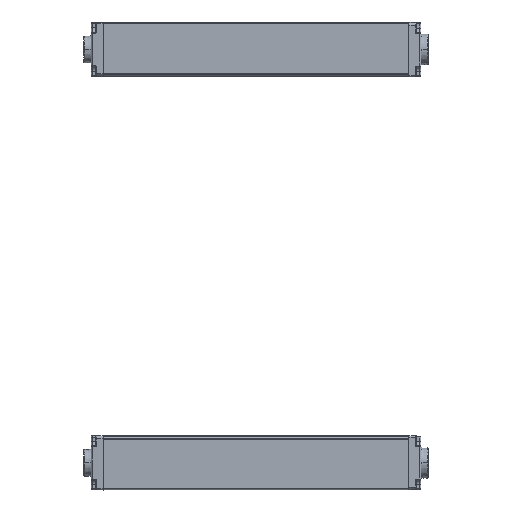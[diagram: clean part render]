
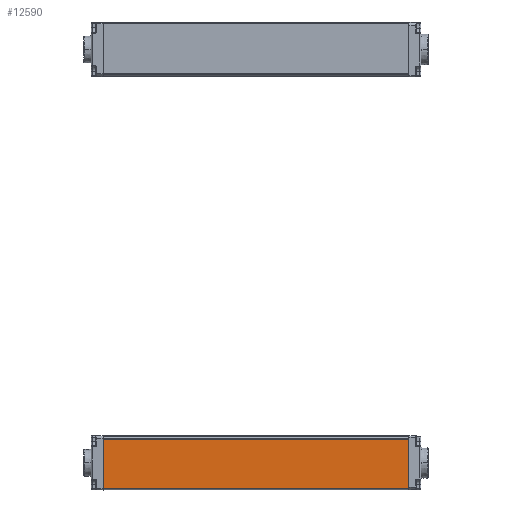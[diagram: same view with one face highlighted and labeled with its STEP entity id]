
A CAD part, left-side view. The second image highlights one B-rep face of the part: STEP entity #12590.
In plain terms, the highlighted planar face has unit normal (-1, 0, -0.009) as drawn and (1, 0, 0) by its records, which use the part's own axes.
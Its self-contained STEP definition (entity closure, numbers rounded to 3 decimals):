
#144 = DIRECTION ( 'NONE',  ( 0., 0., 1. ) ) ;
#168 = CARTESIAN_POINT ( 'NONE',  ( 15., 170., -16.693 ) ) ;
#229 = VERTEX_POINT ( 'NONE', #4207 ) ;
#562 = ORIENTED_EDGE ( 'NONE', *, *, #4742, .T. ) ;
#1528 = PLANE ( 'NONE',  #3622 ) ;
#1542 = CARTESIAN_POINT ( 'NONE',  ( 15., 0., -16.9 ) ) ;
#3309 = ORIENTED_EDGE ( 'NONE', *, *, #9562, .T. ) ;
#3622 = AXIS2_PLACEMENT_3D ( 'NONE', #7088, #12643, #144 ) ;
#3898 = VERTEX_POINT ( 'NONE', #8165 ) ;
#3926 = ORIENTED_EDGE ( 'NONE', *, *, #17310, .T. ) ;
#4207 = CARTESIAN_POINT ( 'NONE',  ( 15., 0., 10.9 ) ) ;
#4289 = CARTESIAN_POINT ( 'NONE',  ( 15., 170., 10.9 ) ) ;
#4395 = VERTEX_POINT ( 'NONE', #5509 ) ;
#4742 = EDGE_CURVE ( 'NONE', #229, #9447, #14022, .T. ) ;
#4900 = ORIENTED_EDGE ( 'NONE', *, *, #7071, .F. ) ;
#5509 = CARTESIAN_POINT ( 'NONE',  ( 15., 170., 10.9 ) ) ;
#5599 = LINE ( 'NONE', #11125, #7611 ) ;
#5769 = DIRECTION ( 'NONE',  ( 0., 1., 0. ) ) ;
#6662 = CARTESIAN_POINT ( 'NONE',  ( 15., 0., -16.693 ) ) ;
#7071 = EDGE_CURVE ( 'NONE', #4395, #3898, #5599, .T. ) ;
#7088 = CARTESIAN_POINT ( 'NONE',  ( 15., 170., -16.9 ) ) ;
#7107 = DIRECTION ( 'NONE',  ( 0., 0., -1. ) ) ;
#7611 = VECTOR ( 'NONE', #16659, 1000. ) ;
#8165 = CARTESIAN_POINT ( 'NONE',  ( 15., 170., -16.693 ) ) ;
#9447 = VERTEX_POINT ( 'NONE', #6662 ) ;
#9562 = EDGE_CURVE ( 'NONE', #4395, #229, #16729, .T. ) ;
#9825 = DIRECTION ( 'NONE',  ( 0., -1., 0. ) ) ;
#10098 = VECTOR ( 'NONE', #5769, 1000. ) ;
#11125 = CARTESIAN_POINT ( 'NONE',  ( 15., 170., -16.9 ) ) ;
#12590 = ADVANCED_FACE ( 'NONE', ( #14010 ), #1528, .F. ) ;
#12643 = DIRECTION ( 'NONE',  ( -1., 0., 0. ) ) ;
#12670 = LINE ( 'NONE', #168, #10098 ) ;
#13793 = VECTOR ( 'NONE', #9825, 1000. ) ;
#14010 = FACE_OUTER_BOUND ( 'NONE', #16901, .T. ) ;
#14022 = LINE ( 'NONE', #1542, #17684 ) ;
#16659 = DIRECTION ( 'NONE',  ( 0., 0., -1. ) ) ;
#16729 = LINE ( 'NONE', #4289, #13793 ) ;
#16901 = EDGE_LOOP ( 'NONE', ( #562, #3926, #4900, #3309 ) ) ;
#17310 = EDGE_CURVE ( 'NONE', #9447, #3898, #12670, .T. ) ;
#17684 = VECTOR ( 'NONE', #7107, 1000. ) ;
